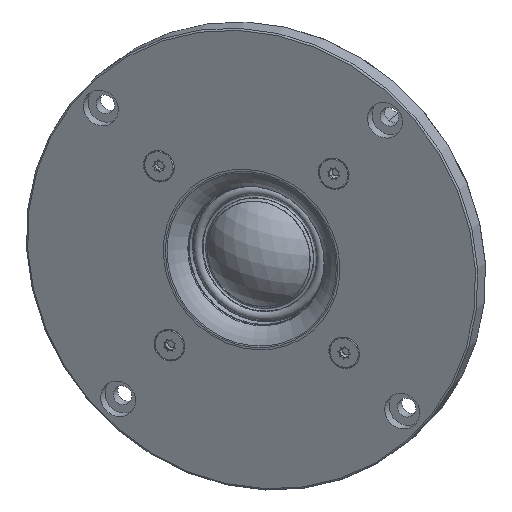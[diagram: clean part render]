
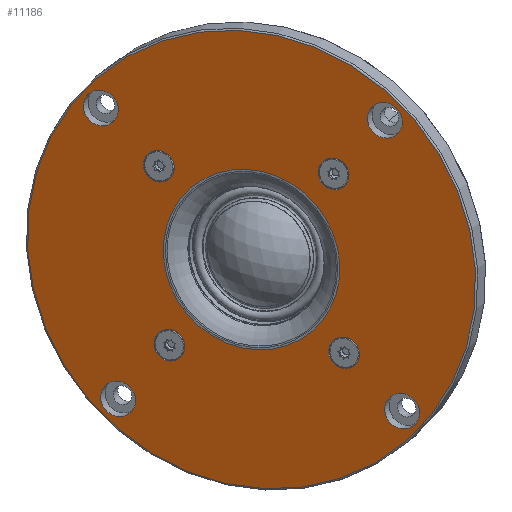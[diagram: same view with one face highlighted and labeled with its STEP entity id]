
A CAD part, left-side view. The second image highlights one B-rep face of the part: STEP entity #11186.
In plain terms, the highlighted planar face has unit normal (-0.9, 0.34, -0.272).
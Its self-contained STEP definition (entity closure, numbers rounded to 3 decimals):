
#2339=FACE_BOUND('',#3161,.T.);
#2340=FACE_BOUND('',#3162,.T.);
#2341=FACE_BOUND('',#3163,.T.);
#2342=FACE_BOUND('',#3164,.T.);
#2343=FACE_BOUND('',#3165,.T.);
#2344=FACE_BOUND('',#3166,.T.);
#2345=FACE_BOUND('',#3167,.T.);
#2346=FACE_BOUND('',#3168,.T.);
#2347=FACE_BOUND('',#3169,.T.);
#2525=FACE_OUTER_BOUND('',#3160,.T.);
#3160=EDGE_LOOP('',(#7637));
#3161=EDGE_LOOP('',(#7638));
#3162=EDGE_LOOP('',(#7639));
#3163=EDGE_LOOP('',(#7640));
#3164=EDGE_LOOP('',(#7641));
#3165=EDGE_LOOP('',(#7642));
#3166=EDGE_LOOP('',(#7643));
#3167=EDGE_LOOP('',(#7644));
#3168=EDGE_LOOP('',(#7645));
#3169=EDGE_LOOP('',(#7646));
#3816=CIRCLE('',#11904,21.5);
#3916=CIRCLE('',#12063,54.6);
#3919=CIRCLE('',#12068,4.25);
#3920=CIRCLE('',#12069,4.25);
#3921=CIRCLE('',#12070,4.25);
#3922=CIRCLE('',#12071,4.25);
#3923=CIRCLE('',#12072,3.75);
#3924=CIRCLE('',#12073,3.75);
#3925=CIRCLE('',#12074,3.75);
#3926=CIRCLE('',#12075,3.75);
#4432=VERTEX_POINT('',#17211);
#4557=VERTEX_POINT('',#17568);
#4560=VERTEX_POINT('',#17578);
#4561=VERTEX_POINT('',#17580);
#4562=VERTEX_POINT('',#17582);
#4563=VERTEX_POINT('',#17584);
#4564=VERTEX_POINT('',#17586);
#4565=VERTEX_POINT('',#17588);
#4566=VERTEX_POINT('',#17590);
#4567=VERTEX_POINT('',#17592);
#5532=EDGE_CURVE('',#4432,#4432,#3816,.T.);
#5706=EDGE_CURVE('',#4557,#4557,#3916,.T.);
#5710=EDGE_CURVE('',#4560,#4560,#3919,.T.);
#5711=EDGE_CURVE('',#4561,#4561,#3920,.T.);
#5712=EDGE_CURVE('',#4562,#4562,#3921,.T.);
#5713=EDGE_CURVE('',#4563,#4563,#3922,.T.);
#5714=EDGE_CURVE('',#4564,#4564,#3923,.T.);
#5715=EDGE_CURVE('',#4565,#4565,#3924,.T.);
#5716=EDGE_CURVE('',#4566,#4566,#3925,.T.);
#5717=EDGE_CURVE('',#4567,#4567,#3926,.T.);
#7637=ORIENTED_EDGE('',*,*,#5706,.F.);
#7638=ORIENTED_EDGE('',*,*,#5532,.T.);
#7639=ORIENTED_EDGE('',*,*,#5710,.T.);
#7640=ORIENTED_EDGE('',*,*,#5711,.T.);
#7641=ORIENTED_EDGE('',*,*,#5712,.T.);
#7642=ORIENTED_EDGE('',*,*,#5713,.T.);
#7643=ORIENTED_EDGE('',*,*,#5714,.T.);
#7644=ORIENTED_EDGE('',*,*,#5715,.T.);
#7645=ORIENTED_EDGE('',*,*,#5716,.T.);
#7646=ORIENTED_EDGE('',*,*,#5717,.T.);
#10170=PLANE('',#12067);
#11186=ADVANCED_FACE('',(#2525,#2339,#2340,#2341,#2342,#2343,#2344,#2345,
#2346,#2347),#10170,.T.);
#11904=AXIS2_PLACEMENT_3D('',#17212,#13428,#13429);
#12063=AXIS2_PLACEMENT_3D('',#17570,#13820,#13821);
#12067=AXIS2_PLACEMENT_3D('',#17577,#13829,#13830);
#12068=AXIS2_PLACEMENT_3D('',#17579,#13831,#13832);
#12069=AXIS2_PLACEMENT_3D('',#17581,#13833,#13834);
#12070=AXIS2_PLACEMENT_3D('',#17583,#13835,#13836);
#12071=AXIS2_PLACEMENT_3D('',#17585,#13837,#13838);
#12072=AXIS2_PLACEMENT_3D('',#17587,#13839,#13840);
#12073=AXIS2_PLACEMENT_3D('',#17589,#13841,#13842);
#12074=AXIS2_PLACEMENT_3D('',#17591,#13843,#13844);
#12075=AXIS2_PLACEMENT_3D('',#17593,#13845,#13846);
#13428=DIRECTION('center_axis',(0.9,-0.34,0.272));
#13429=DIRECTION('ref_axis',(-0.27,0.057,0.961));
#13820=DIRECTION('center_axis',(0.9,-0.34,0.272));
#13821=DIRECTION('ref_axis',(-0.27,0.057,0.961));
#13829=DIRECTION('center_axis',(-0.9,0.34,-0.272));
#13830=DIRECTION('ref_axis',(0.342,0.939,0.041));
#13831=DIRECTION('center_axis',(0.9,-0.34,0.272));
#13832=DIRECTION('ref_axis',(0.27,-0.057,-0.961));
#13833=DIRECTION('center_axis',(0.9,-0.34,0.272));
#13834=DIRECTION('ref_axis',(0.342,0.939,0.041));
#13835=DIRECTION('center_axis',(0.9,-0.34,0.272));
#13836=DIRECTION('ref_axis',(-0.342,-0.939,-0.041));
#13837=DIRECTION('center_axis',(0.9,-0.34,0.272));
#13838=DIRECTION('ref_axis',(-0.27,0.057,0.961));
#13839=DIRECTION('center_axis',(0.9,-0.34,0.272));
#13840=DIRECTION('ref_axis',(0.27,-0.057,-0.961));
#13841=DIRECTION('center_axis',(0.9,-0.34,0.272));
#13842=DIRECTION('ref_axis',(-0.342,-0.939,-0.041));
#13843=DIRECTION('center_axis',(0.9,-0.34,0.272));
#13844=DIRECTION('ref_axis',(-0.27,0.057,0.961));
#13845=DIRECTION('center_axis',(0.9,-0.34,0.272));
#13846=DIRECTION('ref_axis',(0.342,0.939,0.041));
#17211=CARTESIAN_POINT('',(-1.765,1.637,-18.057));
#17212=CARTESIAN_POINT('Origin',(-7.561,2.856,2.612));
#17568=CARTESIAN_POINT('',(11.129,54.11,4.83));
#17570=CARTESIAN_POINT('Origin',(-7.561,2.856,2.612));
#17577=CARTESIAN_POINT('Origin',(2.682,0.702,-33.918));
#17578=CARTESIAN_POINT('',(-11.227,-31.392,-28.019));
#17579=CARTESIAN_POINT('Origin',(-10.081,-31.633,-32.104));
#17580=CARTESIAN_POINT('',(12.184,29.427,-29.461));
#17581=CARTESIAN_POINT('Origin',(13.639,33.417,-29.289));
#17582=CARTESIAN_POINT('',(-27.306,-23.715,34.684));
#17583=CARTESIAN_POINT('Origin',(-28.761,-27.704,34.512));
#17584=CARTESIAN_POINT('',(-3.895,37.104,33.242));
#17585=CARTESIAN_POINT('Origin',(-5.04,37.345,37.327));
#17586=CARTESIAN_POINT('',(-10.123,-18.152,-15.144));
#17587=CARTESIAN_POINT('Origin',(-9.112,-18.365,-18.749));
#17588=CARTESIAN_POINT('',(-19.322,-12.428,22.392));
#17589=CARTESIAN_POINT('Origin',(-20.605,-15.948,22.24));
#17590=CARTESIAN_POINT('',(-4.999,23.865,20.367));
#17591=CARTESIAN_POINT('Origin',(-6.01,24.077,23.972));
#17592=CARTESIAN_POINT('',(4.2,18.14,-17.169));
#17593=CARTESIAN_POINT('Origin',(5.484,21.66,-17.017));
